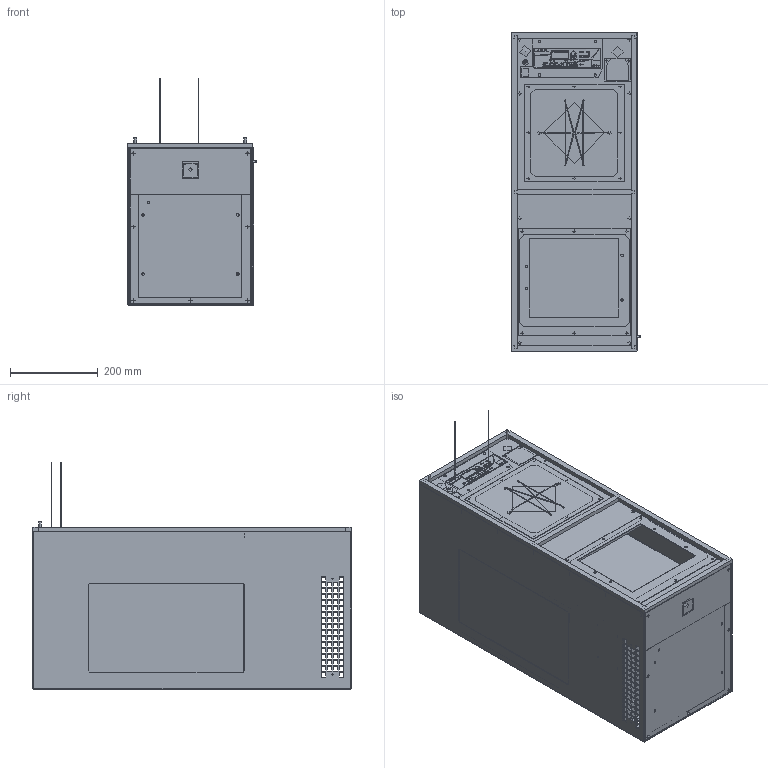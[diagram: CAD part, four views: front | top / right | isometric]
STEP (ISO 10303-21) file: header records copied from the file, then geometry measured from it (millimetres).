
FILE_DESCRIPTION (( 'STEP AP203' ), '1' );
FILE_NAME ('3D Model, IQ4-5-6EV.STEP', '2024-12-20T18:49:16', ( '' ), ( '' ), 'SwSTEP 2.0', 'SolidWorks 2024', '' );
FILE_SCHEMA (( 'CONFIG_CONTROL_DESIGN' ));
Products named in the file (1): 3D Model, IQ4-5-6EV
Bounding box: 292.92 x 726.04 x 518.42 mm (x, y, z)
Topology: 0 solids, 287 shells, 1431 faces, 7048 edges, 5684 vertices
Faces by surface type: plane 1069, cylinder 149, cone 127, bspline 85, sphere 1
Full cylindrical faces by diameter (mm): 2.286 x12, 2.413 x6, 2.692 x4, 2.705 x19, 2.794 x7, 3.175 x6, 3.454 x2, 3.797 x5, 4.064 x5, 4.166 x1, 4.763 x1, 4.826 x7, 5.105 x6, 5.41 x6, 6 x1, 6.35 x2, 7.036 x1, 7.874 x1, 8.738 x4, 9.525 x1, 11.176 x2, 12.7 x1, 25.781 x1, 139.7 x1
Entity records: 123274 total; most frequent: CARTESIAN_POINT 74067, ORIENTED_EDGE 9697, DIRECTION 6831, EDGE_CURVE 6749, VERTEX_POINT 5612, LINE 3109, VECTOR 3109, B_SPLINE_CURVE_WITH_KNOTS 3109
